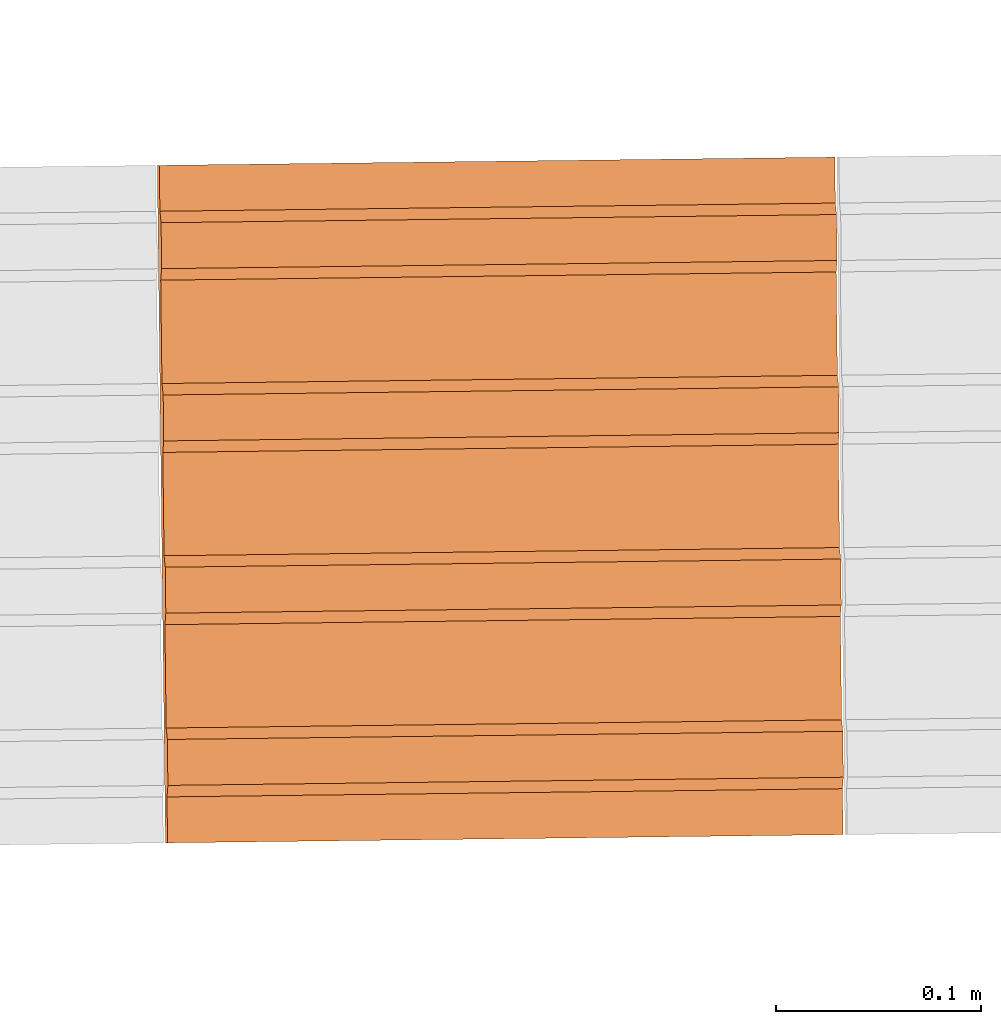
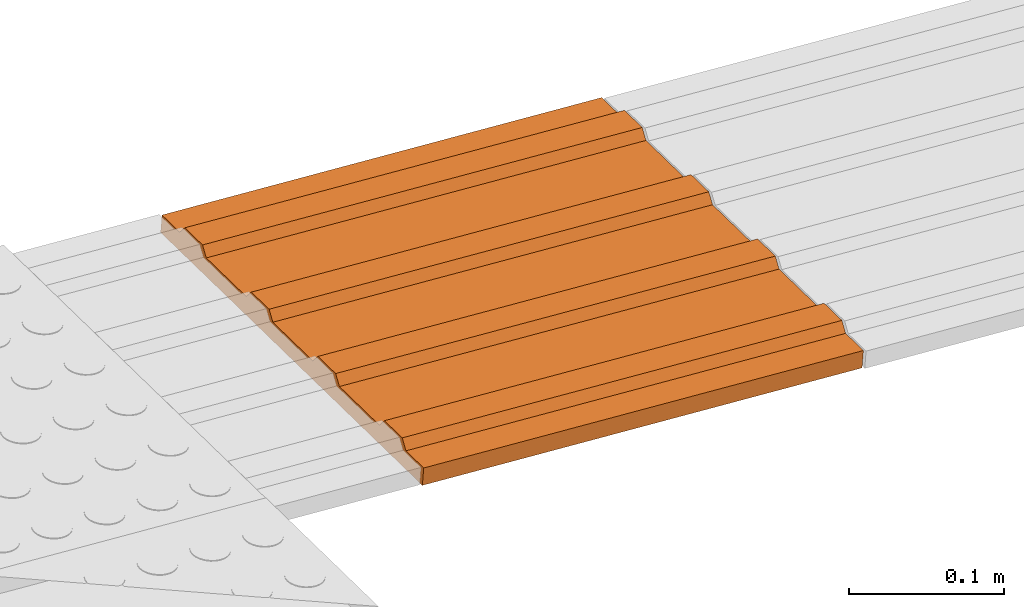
# One storey, part 199 of 237: 1 proxy.
"""IFC2X3 building model written with IfcOpenShell, lengths in millimetres."""

from ifc_helpers import new_model, entity, si_unit, converted_unit, derived_unit, money_unit, direction, frame, origin_with_axes, place, context, subcontext, project, spatial, open_shell, surface_model, source, transform, mapped, type_object, element, save


model = new_model("IFC2X3")

# Units and contexts
model_context = context("Model", 3, precision=0.01, world=origin_with_axes(), true_north=direction((0.0, 1.0)))
body_context = subcontext(model_context, "Body", "Model", "MODEL_VIEW")
ifc_project = project(units=[si_unit("LENGTHUNIT", "METRE", prefix="MILLI"), si_unit("AREAUNIT", "SQUARE_METRE"), si_unit("VOLUMEUNIT", "CUBIC_METRE"), converted_unit("PLANEANGLEUNIT", "DEGREE", entity("IfcPlaneAngleMeasure", 0.0174532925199), si_unit("PLANEANGLEUNIT", "RADIAN"), dimensions=[0, 0, 0, 0, 0, 0, 0]), money_unit("USD"), converted_unit("TIMEUNIT", "Year", entity("IfcTimeMeasure", 31556926.0), si_unit("TIMEUNIT", "SECOND"), dimensions=[0, 0, 1, 0, 0, 0, 0]), si_unit("MASSUNIT", "GRAM", prefix="KILO"), si_unit("THERMODYNAMICTEMPERATUREUNIT", "DEGREE_CELSIUS"), si_unit("LUMINOUSINTENSITYUNIT", "LUMEN"), si_unit("ENERGYUNIT", "JOULE", prefix="MEGA"), derived_unit("THERMALCONDUCTANCEUNIT", [(si_unit("POWERUNIT", "WATT"), 1), (si_unit("LENGTHUNIT", "METRE"), -1), (si_unit("THERMODYNAMICTEMPERATUREUNIT", "KELVIN"), -1)]), derived_unit("SPECIFICHEATCAPACITYUNIT", [(si_unit("ENERGYUNIT", "JOULE"), 1), (si_unit("MASSUNIT", "GRAM", prefix="KILO"), -1), (si_unit("THERMODYNAMICTEMPERATUREUNIT", "KELVIN"), -1)]), derived_unit("MASSDENSITYUNIT", [(si_unit("MASSUNIT", "GRAM", prefix="KILO"), 1), (si_unit("VOLUMEUNIT", "CUBIC_METRE"), -1)])], contexts=[model_context])

# Site, building, storey
site_placement = place(None, origin_with_axes())
site = spatial("IfcSite", under=ifc_project, at=site_placement, Name="Local", CompositionType="ELEMENT")
building_placement = place(site_placement, origin_with_axes())
building = spatial("IfcBuilding", under=site, at=building_placement, Name="Construção", CompositionType="ELEMENT")
storey_placement = place(building_placement, origin_with_axes())
storey = spatial("IfcBuildingStorey", under=building, at=storey_placement, Name="Pavimento Térreo", CompositionType="ELEMENT", Elevation=0.0)

# Proxy
building_element_proxy_type = type_object("IfcBuildingElementProxyType", Name="Piso Direcional 27", PredefinedType="NOTDEFINED")
shared_shape = source(origin_with_axes(), body_context, "Body", "SurfaceModel", [
    surface_model("IfcShellBasedSurfaceModel", [(-0.309064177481, -47.258225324, 4.01664745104), (328.718344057, -47.258225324, 29.3339267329), (328.20688387, -41.665004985, 35.9809450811), (-0.820524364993, -41.665004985, 10.6636657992)], [open_shell([[[0, 1, 2, 3]]])]),
    surface_model("IfcShellBasedSurfaceModel", [(329.741264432, -153.529411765, 16.0398900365), (329.741264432, 176.470588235, 16.0398900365), (328.718344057, 176.470588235, 29.3339267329), (328.718344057, 154.097706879, 29.3339267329), (328.20688387, 148.50448654, 35.9809450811), (328.20688387, 126.131605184, 35.9809450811), (328.718344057, 120.538384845, 29.3339267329), (328.718344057, 70.1994017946, 29.3339267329), (328.20688387, 64.6061814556, 35.9809450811), (328.20688387, 42.2333000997, 35.9809450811), (328.718344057, 36.6400797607, 29.3339267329), (328.718344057, -13.6989032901, 29.3339267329), (328.20688387, -19.2921236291, 35.9809450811), (328.20688387, -41.665004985, 35.9809450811), (328.718344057, -47.258225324, 29.3339267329), (328.718344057, -97.5972083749, 29.3339267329), (328.20688387, -103.190428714, 35.9809450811), (328.20688387, -125.56331007, 35.9809450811), (328.718344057, -131.156530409, 29.3339267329), (328.718344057, -153.529411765, 29.3339267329)], [open_shell([[[0, 1, 2, 3, 4, 5, 6, 7, 8, 9, 10, 11, 12, 13, 14, 15, 16, 17, 18, 19]]])]),
    surface_model("IfcShellBasedSurfaceModel", [(-0.820524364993, -19.2921236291, 10.6636657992), (328.20688387, -19.2921236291, 35.9809450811), (328.718344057, -13.6989032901, 29.3339267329), (-0.309064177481, -13.6989032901, 4.01664745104)], [open_shell([[[0, 1, 2, 3]]])]),
    surface_model("IfcShellBasedSurfaceModel", [(-0.820524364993, -103.190428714, 10.6636657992), (328.20688387, -103.190428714, 35.9809450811), (328.718344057, -97.5972083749, 29.3339267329), (-0.309064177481, -97.5972083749, 4.01664745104)], [open_shell([[[0, 1, 2, 3]]])]),
    surface_model("IfcShellBasedSurfaceModel", [(-0.820524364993, 64.6061814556, 10.6636657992), (328.20688387, 64.6061814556, 35.9809450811), (328.718344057, 70.1994017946, 29.3339267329), (-0.309064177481, 70.1994017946, 4.01664745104)], [open_shell([[[0, 1, 2, 3]]])]),
    surface_model("IfcShellBasedSurfaceModel", [(-0.309064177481, 36.6400797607, 4.01664745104), (328.718344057, 36.6400797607, 29.3339267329), (328.20688387, 42.2333000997, 35.9809450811), (-0.820524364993, 42.2333000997, 10.6636657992)], [open_shell([[[0, 1, 2, 3]]])]),
    surface_model("IfcShellBasedSurfaceModel", [(-0.309064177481, -131.156530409, 4.01664745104), (328.718344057, -131.156530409, 29.3339267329), (328.20688387, -125.56331007, 35.9809450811), (-0.820524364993, -125.56331007, 10.6636657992)], [open_shell([[[0, 1, 2, 3]]])]),
    surface_model("IfcShellBasedSurfaceModel", [(-0.309064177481, 176.470588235, 4.01664745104), (-0.309064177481, 154.097706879, 4.01664745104), (328.718344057, 154.097706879, 29.3339267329), (328.718344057, 176.470588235, 29.3339267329)], [open_shell([[[0, 1, 2, 3]]])]),
    surface_model("IfcShellBasedSurfaceModel", [(-0.309064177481, 120.538384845, 4.01664745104), (328.718344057, 120.538384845, 29.3339267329), (328.20688387, 126.131605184, 35.9809450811), (-0.820524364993, 126.131605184, 10.6636657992)], [open_shell([[[0, 1, 2, 3]]])]),
    surface_model("IfcShellBasedSurfaceModel", [(-0.820524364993, 148.50448654, 10.6636657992), (328.20688387, 148.50448654, 35.9809450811), (328.718344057, 154.097706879, 29.3339267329), (-0.309064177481, 154.097706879, 4.01664745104)], [open_shell([[[0, 1, 2, 3]]])]),
    surface_model("IfcShellBasedSurfaceModel", [(-0.309064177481, 36.6400797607, 4.01664745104), (-0.309064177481, -13.6989032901, 4.01664745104), (328.718344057, -13.6989032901, 29.3339267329), (328.718344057, 36.6400797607, 29.3339267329)], [open_shell([[[0, 1, 2, 3]]])]),
    surface_model("IfcShellBasedSurfaceModel", [(-0.309064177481, 120.538384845, 4.01664745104), (-0.309064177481, 70.1994017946, 4.01664745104), (328.718344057, 70.1994017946, 29.3339267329), (328.718344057, 120.538384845, 29.3339267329)], [open_shell([[[0, 1, 2, 3]]])]),
    surface_model("IfcShellBasedSurfaceModel", [(-0.820524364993, 148.50448654, 10.6636657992), (-0.820524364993, 126.131605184, 10.6636657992), (328.20688387, 126.131605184, 35.9809450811), (328.20688387, 148.50448654, 35.9809450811)], [open_shell([[[0, 1, 2, 3]]])]),
    surface_model("IfcShellBasedSurfaceModel", [(-0.309064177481, 120.538384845, 4.01664745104), (-0.820524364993, 126.131605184, 10.6636657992), (-0.820524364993, 148.50448654, 10.6636657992), (-0.309064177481, 154.097706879, 4.01664745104), (-0.309064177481, 176.470588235, 4.01664745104), (0.713856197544, 176.470588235, -9.27738924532), (0.713856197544, -153.529411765, -9.27738924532), (-0.309064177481, -153.529411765, 4.01664745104), (-0.309064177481, -131.156530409, 4.01664745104), (-0.820524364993, -125.56331007, 10.6636657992), (-0.820524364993, -103.190428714, 10.6636657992), (-0.309064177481, -97.5972083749, 4.01664745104), (-0.309064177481, -47.258225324, 4.01664745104), (-0.820524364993, -41.665004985, 10.6636657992), (-0.820524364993, -19.2921236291, 10.6636657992), (-0.309064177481, -13.6989032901, 4.01664745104), (-0.309064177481, 36.6400797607, 4.01664745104), (-0.820524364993, 42.2333000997, 10.6636657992), (-0.820524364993, 64.6061814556, 10.6636657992), (-0.309064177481, 70.1994017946, 4.01664745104)], [open_shell([[[0, 1, 2, 3, 4, 5, 6, 7, 8, 9, 10, 11, 12, 13, 14, 15, 16, 17, 18, 19]]])]),
    surface_model("IfcShellBasedSurfaceModel", [(328.20688387, -41.665004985, 35.9809450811), (328.20688387, -19.2921236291, 35.9809450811), (-0.820524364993, -19.2921236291, 10.6636657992), (-0.820524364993, -41.665004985, 10.6636657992)], [open_shell([[[0, 1, 2, 3]]])]),
    surface_model("IfcShellBasedSurfaceModel", [(-0.309064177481, -47.258225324, 4.01664745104), (-0.309064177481, -97.5972083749, 4.01664745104), (328.718344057, -97.5972083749, 29.3339267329), (328.718344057, -47.258225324, 29.3339267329)], [open_shell([[[0, 1, 2, 3]]])]),
    surface_model("IfcShellBasedSurfaceModel", [(328.20688387, 42.2333000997, 35.9809450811), (328.20688387, 64.6061814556, 35.9809450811), (-0.820524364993, 64.6061814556, 10.6636657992), (-0.820524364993, 42.2333000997, 10.6636657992)], [open_shell([[[0, 1, 2, 3]]])]),
    surface_model("IfcShellBasedSurfaceModel", [(328.20688387, -125.56331007, 35.9809450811), (328.20688387, -103.190428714, 35.9809450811), (-0.820524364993, -103.190428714, 10.6636657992), (-0.820524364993, -125.56331007, 10.6636657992)], [open_shell([[[0, 1, 2, 3]]])]),
    surface_model("IfcShellBasedSurfaceModel", [(329.741264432, 176.470588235, 16.0398900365), (0.713856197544, 176.470588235, -9.27738924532), (-0.309064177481, 176.470588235, 4.01664745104), (328.718344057, 176.470588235, 29.3339267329)], [open_shell([[[0, 1, 2, 3]]])]),
    surface_model("IfcShellBasedSurfaceModel", [(329.741264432, -153.529411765, 16.0398900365), (0.713856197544, -153.529411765, -9.27738924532), (0.713856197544, 176.470588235, -9.27738924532), (329.741264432, 176.470588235, 16.0398900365)], [open_shell([[[0, 1, 2, 3]]])]),
    surface_model("IfcShellBasedSurfaceModel", [(328.718344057, -153.529411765, 29.3339267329), (328.718344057, -131.156530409, 29.3339267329), (-0.309064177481, -131.156530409, 4.01664745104), (-0.309064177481, -153.529411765, 4.01664745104)], [open_shell([[[0, 1, 2, 3]]])]),
    surface_model("IfcShellBasedSurfaceModel", [(0.713856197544, -153.529411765, -9.27738924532), (329.741264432, -153.529411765, 16.0398900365), (328.718344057, -153.529411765, 29.3339267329), (-0.309064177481, -153.529411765, 4.01664745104)], [open_shell([[[0, 1, 2, 3]]])]),
])
proxy_placement = place(storey_placement, frame((98758.5952174, 37246.5288254, -5266.80095189), z_axis=(0.0, 0.0, 1.0), x_axis=(-0.999926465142, -0.012127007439, 0.0)))
element("IfcBuildingElementProxy", 1, at=proxy_placement, inside=storey, type_object=building_element_proxy_type, Name="Objeto-0055", context=body_context, shape_type="MappedRepresentation", body=[
    mapped(shared_shape, transform((0.0, 0.0, 0.0))),
])

save(model, "model.ifc")
